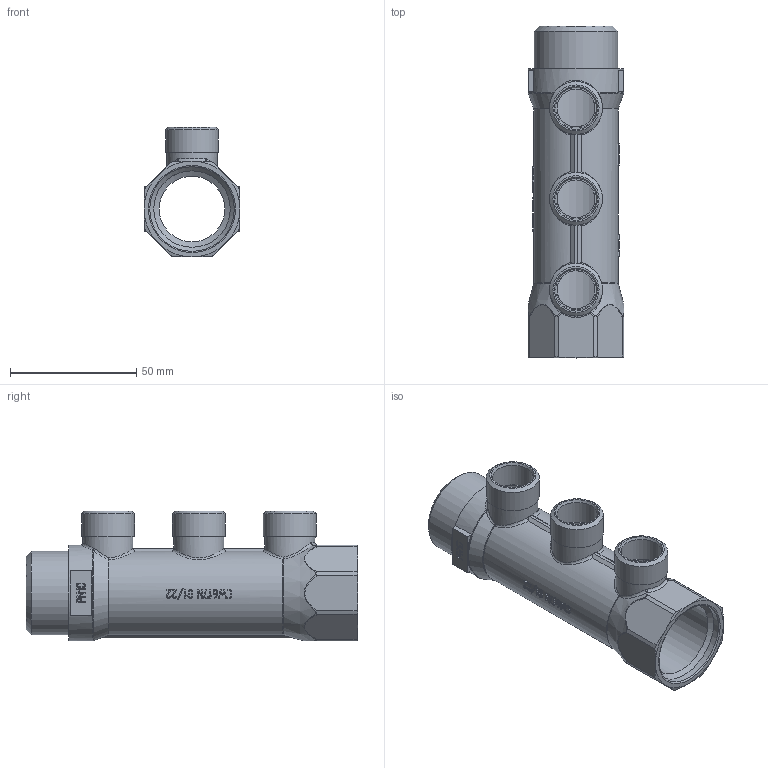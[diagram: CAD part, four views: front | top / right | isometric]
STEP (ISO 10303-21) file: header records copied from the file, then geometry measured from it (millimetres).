
FILE_DESCRIPTION(('STEP AP203'), '1');
FILE_NAME('ÂÐ.732182.026 - VTc.500.N.0603 Êîë. G1 (3õG1-2) L131,5', '2024-07-25T08:42:29', ('IT'), ('VESTA'), 'C3D Converter', 'C3D Toolkit', '');
FILE_SCHEMA(('CONFIG_CONTROL_DESIGN'));
Length unit declared in the file: millimetre
Products named in the file (1): ВР.732182.026
Bounding box: 38 x 131.5 x 51.5 mm (x, y, z)
Volume: 40854.7 mm3; surface area: 32834.4 mm2
Topology: 1 solids, 1 shells, 688 faces, 1899 edges, 1248 vertices
Faces by surface type: extrusion 340, plane 237, cylinder 48, bspline 28, cone 20, torus 15
Full cylindrical faces by diameter (mm): 15 x3, 16.1 x3, 20 x3, 20.955 x3, 26 x1, 30.292 x1, 33.249 x1, 33.5 x1, 38 x1
Entity records: 33082 total; most frequent: CARTESIAN_POINT 17551, ORIENTED_EDGE 3732, DIRECTION 2068, EDGE_CURVE 1866, VERTEX_POINT 1248, B_SPLINE_CURVE_WITH_KNOTS 1155, VECTOR 1116, LINE 776
